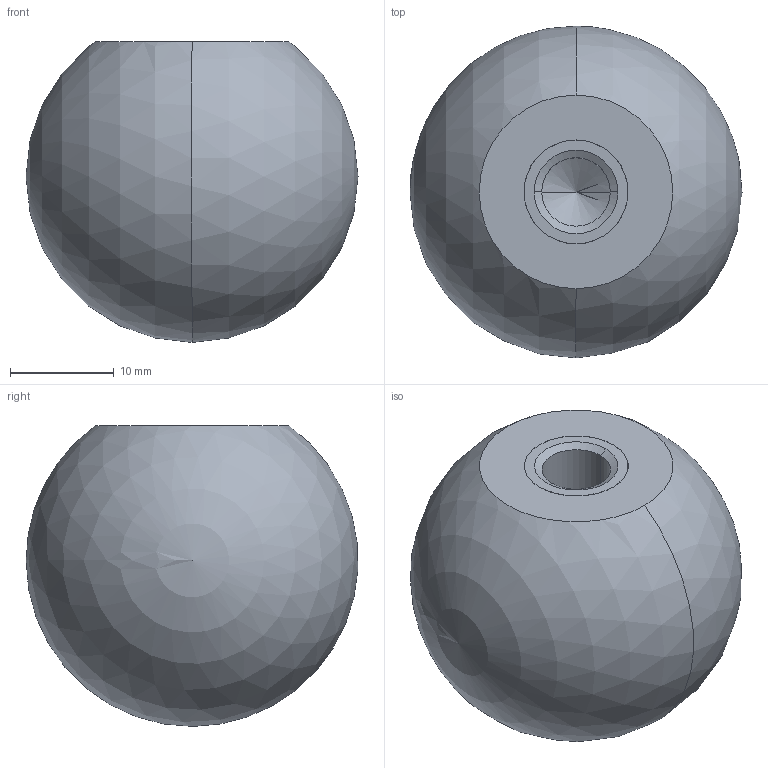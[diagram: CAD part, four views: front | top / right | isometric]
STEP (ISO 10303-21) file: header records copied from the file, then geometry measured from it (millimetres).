
FILE_DESCRIPTION (( 'STEP AP214' ), '1' );
FILE_NAME ('319-KU-32-M8-E.step', '2023-12-18T11:10:13', ( '' ), ( '' ), 'SwSTEP 2.0', 'SolidWorks 2022', '' );
FILE_SCHEMA (( 'AUTOMOTIVE_DESIGN' ));
Length unit declared in the file: millimetre
Products named in the file (1): 319-KU-32-M8-E
Bounding box: 32 x 31.97 x 29 mm (x, y, z)
Volume: 16365.1 mm3; surface area: 3396.3 mm2
Topology: 1 solids, 1 shells, 15 faces, 35 edges, 21 vertices
Faces by surface type: cylinder 6, cone 4, plane 3, sphere 2
Entity records: 495 total; most frequent: DIRECTION 78, CARTESIAN_POINT 62, ORIENTED_EDGE 56, AXIS2_PLACEMENT_3D 34, EDGE_CURVE 28, VERTEX_POINT 18, CIRCLE 18, EDGE_LOOP 18
